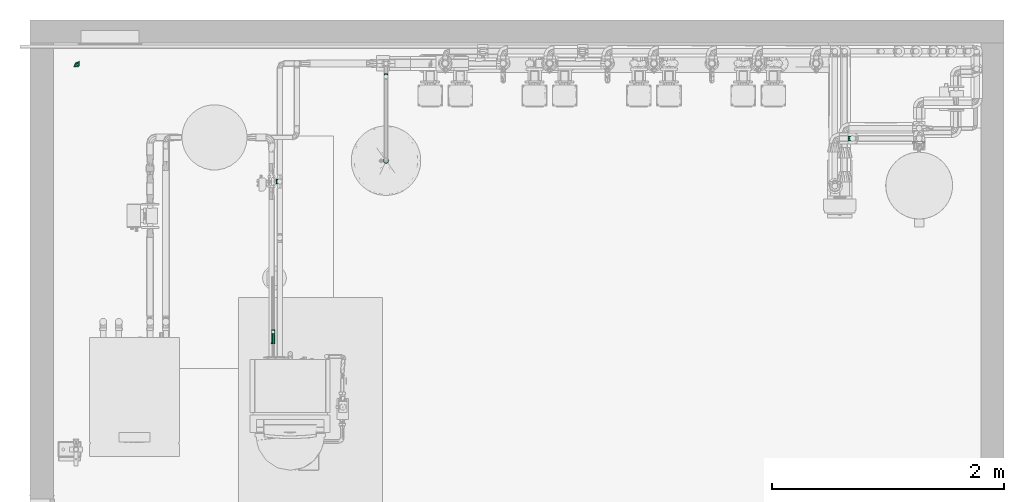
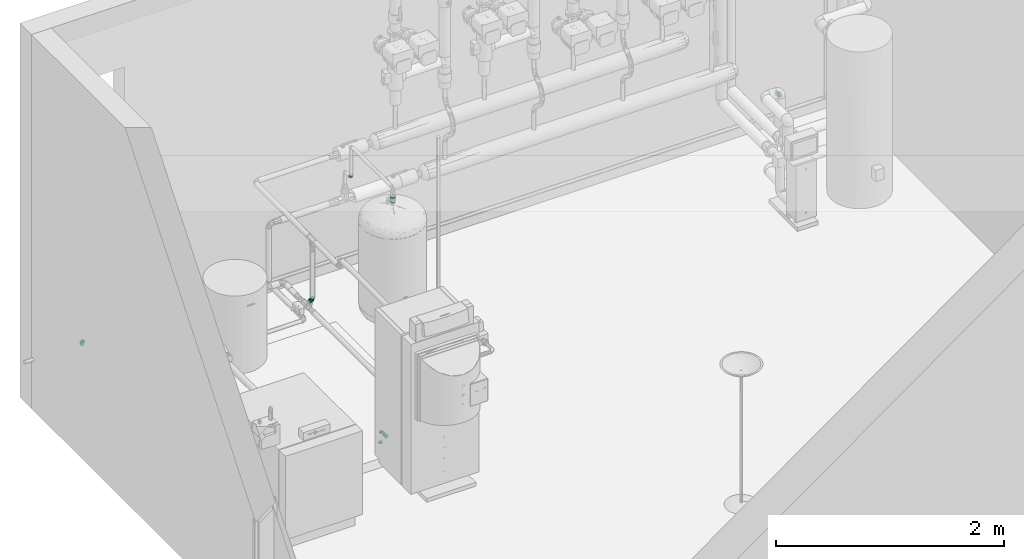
# One storey, part 93 of 94: 8 flow fittings.
"""IFC2X3 building model written with IfcOpenShell, lengths in millimetres."""

import ifcopenshell
import ifcopenshell.guid

model = None  # the IFC model being written
_history = None  # IfcOwnerHistory: only IFC2X3 demands one
_inside = {}  # id of a spatial element -> (the spatial element, [elements in it])
_under = {}  # id of a project, library or spatial element -> (it, [spatial elements below it])
_declared = {}  # id of a project -> (the project, [libraries it declares])
_typed = {}  # id of a type object -> (the type object, [elements of that type])
_made_of = {}  # id of a material, layer set ... -> (it, [elements and type objects made of it])


def new_model(schema):
    """Start an empty IFC model of exactly this schema.

    Asked for "IFC4X3", IfcOpenShell would pick the latest addendum, in which some entities
    have other attributes; the version numbers below select the first issue.
    IFC2X3 requires an IfcOwnerHistory on every rooted entity: one is made here for all.
    """
    global model, _history
    if schema == "IFC4X3":
        model = ifcopenshell.file(schema_version=(4, 3, 0, 0))
    else:
        model = ifcopenshell.file(schema=schema)
    _inside.clear()
    _under.clear()
    _declared.clear()
    _typed.clear()
    _made_of.clear()
    _history = None
    if model.schema == "IFC2X3":
        org = make("IfcOrganization", Name="unknown")
        user = make(
            "IfcPersonAndOrganization",
            ThePerson=make("IfcPerson", FamilyName="unknown"),
            TheOrganization=org,
        )
        app = make(
            "IfcApplication",
            ApplicationDeveloper=org,
            Version="unknown",
            ApplicationFullName="unknown",
            ApplicationIdentifier="unknown",
        )
        _history = make(
            "IfcOwnerHistory",
            OwningUser=user,
            OwningApplication=app,
            ChangeAction="ADDED",
            CreationDate=0,
        )
    return model


def make(cls, **values):
    """One entity of the class cls with the attributes given. An attribute that is None is left unset."""
    return model.create_entity(
        cls, **{name: value for name, value in values.items() if value is not None}
    )


def entity(cls, *values):
    """Any entity or typed value of the class cls, its attributes in the order of the schema. None: left unset."""
    e = model.create_entity(cls)
    for i, value in enumerate(values):
        if value is not None:
            e[i] = value
    return e


def rooted(cls, **values):
    """An entity with a GlobalId (a new one), such as an element, a storey or a relation."""
    return make(cls, GlobalId=ifcopenshell.guid.new(), OwnerHistory=_history, **values)


def si_unit(unit_type, name, prefix=None):
    """IfcSIUnit, for example si_unit("LENGTHUNIT", "METRE", prefix="MILLI")."""
    return make("IfcSIUnit", UnitType=unit_type, Prefix=prefix, Name=name)


def converted_unit(unit_type, name, factor, base, dimensions=None, offset=None):
    """IfcConversionBasedUnit, such as the inch: factor (a typed value) times the base unit."""
    return make(
        "IfcConversionBasedUnit"
        if offset is None
        else "IfcConversionBasedUnitWithOffset",
        ConversionOffset=offset,
        Dimensions=None
        if dimensions is None
        else entity("IfcDimensionalExponents", *dimensions),
        UnitType=unit_type,
        Name=name,
        ConversionFactor=make(
            "IfcMeasureWithUnit", ValueComponent=factor, UnitComponent=base
        ),
    )


def derived_unit(unit_type, elements):
    """IfcDerivedUnit: a product of units, each with its exponent."""
    return make(
        "IfcDerivedUnit",
        Elements=[
            make("IfcDerivedUnitElement", Unit=unit, Exponent=power)
            for unit, power in elements
        ],
        UnitType=unit_type,
    )


def assignment(units):
    """IfcUnitAssignment: the units of a project."""
    return None if units is None else make("IfcUnitAssignment", Units=units)


def point(xyz):
    """IfcCartesianPoint."""
    return None if xyz is None else make("IfcCartesianPoint", Coordinates=xyz)


def direction(xyz):
    """IfcDirection."""
    return None if xyz is None else make("IfcDirection", DirectionRatios=xyz)


def frame(location, z_axis=None, x_axis=None):
    """IfcAxis2Placement3D, a coordinate frame: its origin and axes. An axis left out is left unset."""
    return make(
        "IfcAxis2Placement3D",
        Location=point(location),
        Axis=direction(z_axis),
        RefDirection=direction(x_axis),
    )


def origin():
    """The frame at (0, 0, 0) with its axes left unset."""
    return frame((0.0, 0.0, 0.0))


def place(relative_to, where):
    """IfcLocalPlacement: puts the frame where relative to a parent placement (None: the world)."""
    return make(
        "IfcLocalPlacement", PlacementRelTo=relative_to, RelativePlacement=where
    )


def context(
    kind, dimensions, precision=None, world=None, true_north=None, identifier=None
):
    """IfcGeometricRepresentationContext, for example the 3D "Model" context."""
    return make(
        "IfcGeometricRepresentationContext",
        ContextIdentifier=identifier,
        ContextType=kind,
        CoordinateSpaceDimension=dimensions,
        Precision=precision,
        WorldCoordinateSystem=world,
        TrueNorth=true_north,
    )


def subcontext(parent, identifier, kind, view, scale=None):
    """IfcGeometricRepresentationSubContext, for example "Body" below "Model"."""
    return make(
        "IfcGeometricRepresentationSubContext",
        ContextIdentifier=identifier,
        ContextType=kind,
        ParentContext=parent,
        TargetScale=scale,
        TargetView=view,
    )


def project(units=None, contexts=None):
    """IfcProject with its units and contexts."""
    return rooted(
        "IfcProject",
        Name="project",
        RepresentationContexts=contexts,
        UnitsInContext=assignment(units),
    )


def spatial(cls, under=None, at=None, **own):
    """A site, building, storey or space (cls), placed at a placement, below another one or the project."""
    s = rooted(cls, ObjectPlacement=at, **own)
    if under is not None:
        _under.setdefault(under.id(), (under, []))[1].append(s)
    return s


def faces_of(points, faces, orient=None, outer=None):
    """IfcFace entities. A face is a list of loops; a loop is a list of indices into points, from 0.

    orient and outer hold one flag for each loop. By default every Orientation is true, the
    first loop of a face is its IfcFaceOuterBound and the others are IfcFaceBound.
    """
    made = []
    for i, loops in enumerate(faces):
        bounds = []
        for j, loop in enumerate(loops):
            is_outer = j == 0 if outer is None else outer[i][j]
            bounds.append(
                make(
                    "IfcFaceOuterBound" if is_outer else "IfcFaceBound",
                    Bound=make("IfcPolyLoop", Polygon=[points[k] for k in loop]),
                    Orientation=True if orient is None else orient[i][j],
                )
            )
        made.append(make("IfcFace", Bounds=bounds))
    return made


def faceted_brep(points, faces, orient=None, outer=None, voids=None):
    """IfcFacetedBrep: a solid bounded by flat faces; with voids (closed shells), ...WithVoids."""
    shared = [point(p) for p in points]
    hull = make("IfcClosedShell", CfsFaces=faces_of(shared, faces, orient, outer))
    if voids is None:
        return make("IfcFacetedBrep", Outer=hull)
    return make(
        "IfcFacetedBrepWithVoids",
        Outer=hull,
        Voids=[
            make(cls, CfsFaces=faces_of(shared, fs, o, b)) for cls, fs, o, b in voids
        ],
    )


def shape(context_of_items, identifier, shape_type, items):
    """IfcShapeRepresentation: the items that make up one representation, for example the "Body"."""
    return make(
        "IfcShapeRepresentation",
        ContextOfItems=context_of_items,
        RepresentationIdentifier=identifier,
        RepresentationType=shape_type,
        Items=items,
    )


def source(mapping_origin, context_of_items, identifier, shape_type, items):
    """IfcRepresentationMap: a shape defined once, which mapped items show again and again."""
    return make(
        "IfcRepresentationMap",
        MappingOrigin=mapping_origin,
        MappedRepresentation=shape(context_of_items, identifier, shape_type, items),
    )


def transform(
    local_origin,
    x_axis=None,
    y_axis=None,
    z_axis=None,
    scale=None,
    scale2=None,
    scale3=None,
    uniform=True,
):
    """IfcCartesianTransformationOperator3D, or its non-uniform kind. x_axis, y_axis, z_axis: its Axis1, 2, 3."""
    if uniform:
        return make(
            "IfcCartesianTransformationOperator3D",
            Axis1=direction(x_axis),
            Axis2=direction(y_axis),
            LocalOrigin=point(local_origin),
            Scale=scale,
            Axis3=direction(z_axis),
        )
    return make(
        "IfcCartesianTransformationOperator3DnonUniform",
        Axis1=direction(x_axis),
        Axis2=direction(y_axis),
        LocalOrigin=point(local_origin),
        Scale=scale,
        Axis3=direction(z_axis),
        Scale2=scale2,
        Scale3=scale3,
    )


def mapped(mapping_source, mapping_target):
    """IfcMappedItem: shows the shape of a source again, moved by a transform."""
    return make(
        "IfcMappedItem", MappingSource=mapping_source, MappingTarget=mapping_target
    )


def material(Name=None, Category=None):
    """IfcMaterial."""
    return make("IfcMaterial", Name=Name, Category=Category)


def made_of(thing, what):
    """Note that an element or type object is made of a material, layer set ...; save() writes the relation."""
    if what is not None:
        _made_of.setdefault(what.id(), (what, []))[1].append(thing)
    return thing


def type_object(cls, material=None, **own):
    """A type object (cls), such as IfcWallType, which elements share."""
    return made_of(rooted(cls, **own), material)


def type_shapes(of_type, sources):
    """Give a type object the sources (RepresentationMaps) that its elements show as mapped items."""
    of_type.RepresentationMaps = sources


def element(
    cls,
    number,
    at=None,
    inside=None,
    cuts=None,
    type_object=None,
    material=None,
    context=None,
    identifier="Body",
    shape_type=None,
    held_by="IfcProductDefinitionShape",
    body=None,
    shapes=None,
    **own,
):
    """One element of the class cls, such as IfcWall. Its Tag is "e" and its number.

    at: its placement. inside: the storey or other place that contains it. cuts: it is an
    opening in that element (IfcRelVoidsElement). A single representation is given by context,
    identifier, shape_type and body (its items); several are given by shapes. held_by: the class
    of the entity that holds the representations. save() writes the other relations.
    """
    e = rooted(cls, Tag="e%d" % number, ObjectPlacement=at, **own)
    if body is not None:
        shapes = [shape(context, identifier, shape_type, body)]
    if shapes is not None:
        e.Representation = make(held_by, Representations=shapes)
    if inside is not None:
        _inside.setdefault(inside.id(), (inside, []))[1].append(e)
    if cuts is not None:
        rooted(
            "IfcRelVoidsElement", RelatingBuildingElement=cuts, RelatedOpeningElement=e
        )
    if type_object is not None:
        _typed.setdefault(type_object.id(), (type_object, []))[1].append(e)
    return made_of(e, material)


def aggregate(whole, parts):
    """IfcRelAggregates: a whole, such as a stair, and the parts it consists of."""
    return rooted("IfcRelAggregates", RelatingObject=whole, RelatedObjects=parts)


def save(model, path):
    """Write the relations noted so far, then the file.

    IfcRelAggregates (storeys below a building ...), IfcRelContainedInSpatialStructure (elements
    in a storey), IfcRelDefinesByType, IfcRelAssociatesMaterial and IfcRelDeclares: one each for
    every whole, place, type object, material and project.
    """
    for whole, parts in _under.values():
        aggregate(whole, parts)
    for where, things in _inside.values():
        rooted(
            "IfcRelContainedInSpatialStructure",
            RelatedElements=things,
            RelatingStructure=where,
        )
    for kind, things in _typed.values():
        rooted("IfcRelDefinesByType", RelatedObjects=things, RelatingType=kind)
    for what, things in _made_of.values():
        rooted("IfcRelAssociatesMaterial", RelatedObjects=things, RelatingMaterial=what)
    for by, libraries in _declared.values():
        rooted("IfcRelDeclares", RelatingContext=by, RelatedDefinitions=libraries)
    model.write(path)


model = new_model("IFC2X3")

# Units and contexts
model_context = context("Model", 3, precision=0.01, world=origin(), true_north=direction((6.123031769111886e-17, 1.0)))
body_context = subcontext(model_context, "Body", "Model", "MODEL_VIEW")
ifc_project = project(units=[si_unit("LENGTHUNIT", "METRE", prefix="MILLI"), si_unit("AREAUNIT", "SQUARE_METRE"), si_unit("VOLUMEUNIT", "CUBIC_METRE"), converted_unit("PLANEANGLEUNIT", "DEGREE", entity("IfcRatioMeasure", 0.017453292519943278), si_unit("PLANEANGLEUNIT", "RADIAN"), dimensions=[0, 0, 0, 0, 0, 0, 0]), si_unit("MASSUNIT", "GRAM", prefix="KILO"), derived_unit("MASSDENSITYUNIT", [(si_unit("MASSUNIT", "GRAM", prefix="KILO"), 1), (si_unit("LENGTHUNIT", "METRE"), -3)]), derived_unit("IONCONCENTRATIONUNIT", [(si_unit("MASSUNIT", "GRAM", prefix="KILO"), 1), (si_unit("LENGTHUNIT", "METRE"), -3)]), derived_unit("MOMENTOFINERTIAUNIT", [(si_unit("LENGTHUNIT", "METRE"), 4)]), si_unit("TIMEUNIT", "SECOND"), si_unit("FREQUENCYUNIT", "HERTZ"), si_unit("THERMODYNAMICTEMPERATUREUNIT", "DEGREE_CELSIUS"), derived_unit("THERMALTRANSMITTANCEUNIT", [(si_unit("MASSUNIT", "GRAM", prefix="KILO"), 1), (si_unit("THERMODYNAMICTEMPERATUREUNIT", "KELVIN"), -1), (si_unit("TIMEUNIT", "SECOND"), -3)]), derived_unit("THERMALCONDUCTANCEUNIT", [(si_unit("MASSUNIT", "GRAM", prefix="KILO"), 1), (si_unit("THERMODYNAMICTEMPERATUREUNIT", "KELVIN"), -1), (si_unit("TIMEUNIT", "SECOND"), -3), (si_unit("LENGTHUNIT", "METRE"), 1)]), derived_unit("VOLUMETRICFLOWRATEUNIT", [(si_unit("LENGTHUNIT", "METRE"), 3), (si_unit("TIMEUNIT", "SECOND"), -1)]), derived_unit("MASSFLOWRATEUNIT", [(si_unit("MASSUNIT", "GRAM", prefix="KILO"), 1), (si_unit("TIMEUNIT", "SECOND"), -1)]), derived_unit("ROTATIONALFREQUENCYUNIT", [(si_unit("TIMEUNIT", "SECOND"), -1)]), si_unit("ELECTRICCURRENTUNIT", "AMPERE"), si_unit("ELECTRICVOLTAGEUNIT", "VOLT"), si_unit("POWERUNIT", "WATT"), si_unit("FORCEUNIT", "NEWTON", prefix="KILO"), si_unit("ILLUMINANCEUNIT", "LUX"), si_unit("LUMINOUSFLUXUNIT", "LUMEN"), si_unit("LUMINOUSINTENSITYUNIT", "CANDELA"), derived_unit("USERDEFINED", [(si_unit("MASSUNIT", "GRAM", prefix="KILO"), -1), (si_unit("LENGTHUNIT", "METRE"), -2), (si_unit("TIMEUNIT", "SECOND"), 3), (si_unit("LUMINOUSFLUXUNIT", "LUMEN"), 1)]), derived_unit("USERDEFINED", [(si_unit("MASSUNIT", "GRAM", prefix="KILO"), 1), (si_unit("TIMEUNIT", "SECOND"), -3), (si_unit("LENGTHUNIT", "METRE"), 3), (si_unit("ELECTRICCURRENTUNIT", "AMPERE"), -2)]), derived_unit("SOUNDPOWERUNIT", [(si_unit("MASSUNIT", "GRAM", prefix="KILO"), 1), (si_unit("TIMEUNIT", "SECOND"), -3), (si_unit("LENGTHUNIT", "METRE"), 2)]), derived_unit("SOUNDPRESSUREUNIT", [(si_unit("MASSUNIT", "GRAM", prefix="KILO"), 1), (si_unit("LENGTHUNIT", "METRE"), -1), (si_unit("TIMEUNIT", "SECOND"), -2)]), derived_unit("LINEARVELOCITYUNIT", [(si_unit("LENGTHUNIT", "METRE"), 1), (si_unit("TIMEUNIT", "SECOND"), -1)]), si_unit("PRESSUREUNIT", "PASCAL"), derived_unit("USERDEFINED", [(si_unit("MASSUNIT", "GRAM", prefix="KILO"), 1), (si_unit("LENGTHUNIT", "METRE"), -2), (si_unit("TIMEUNIT", "SECOND"), -2)]), derived_unit("LINEARFORCEUNIT", [(si_unit("MASSUNIT", "GRAM", prefix="KILO"), 1), (si_unit("TIMEUNIT", "SECOND"), -2)]), derived_unit("PLANARFORCEUNIT", [(si_unit("MASSUNIT", "GRAM", prefix="KILO"), 1), (si_unit("LENGTHUNIT", "METRE"), -1), (si_unit("TIMEUNIT", "SECOND"), -2)]), derived_unit("SPECIFICHEATCAPACITYUNIT", [(si_unit("THERMODYNAMICTEMPERATUREUNIT", "KELVIN"), -1), (si_unit("LENGTHUNIT", "METRE"), 2), (si_unit("TIMEUNIT", "SECOND"), -2)]), derived_unit("HEATINGVALUEUNIT", [(si_unit("LENGTHUNIT", "METRE"), 2), (si_unit("TIMEUNIT", "SECOND"), -2)]), derived_unit("VAPORPERMEABILITYUNIT", [(si_unit("LENGTHUNIT", "METRE"), -1), (si_unit("TIMEUNIT", "SECOND"), 1)]), derived_unit("DYNAMICVISCOSITYUNIT", [(si_unit("MASSUNIT", "GRAM", prefix="KILO"), 1), (si_unit("TIMEUNIT", "SECOND"), -1), (si_unit("LENGTHUNIT", "METRE"), -1)]), derived_unit("THERMALEXPANSIONCOEFFICIENTUNIT", [(si_unit("THERMODYNAMICTEMPERATUREUNIT", "KELVIN"), -1)]), derived_unit("MODULUSOFELASTICITYUNIT", [(si_unit("MASSUNIT", "GRAM", prefix="KILO"), 1), (si_unit("LENGTHUNIT", "METRE"), -1), (si_unit("TIMEUNIT", "SECOND"), -2)]), derived_unit("ISOTHERMALMOISTURECAPACITYUNIT", [(si_unit("LENGTHUNIT", "METRE"), 3), (si_unit("MASSUNIT", "GRAM", prefix="KILO"), -1)]), derived_unit("MOISTUREDIFFUSIVITYUNIT", [(si_unit("TIMEUNIT", "SECOND"), -1), (si_unit("LENGTHUNIT", "METRE"), 2)])], contexts=[model_context])

# Site, building, storey
site_placement = place(None, origin())
site = spatial("IfcSite", under=ifc_project, at=site_placement, Name="Default", CompositionType="ELEMENT")
building_placement = place(site_placement, origin())
building = spatial("IfcBuilding", under=site, at=building_placement, CompositionType="ELEMENT")
storey_placement = place(building_placement, origin())
storey = spatial("IfcBuildingStorey", under=building, at=storey_placement, Name="Niveau 0", CompositionType="ELEMENT", Elevation=0.0)

# Flow fittings
ifc_material = material(Name="<Unnamed>")
pipe_fitting_type_1 = type_object("IfcPipeFittingType", Name="Coude - Générique:Standard", PredefinedType="NOTDEFINED", material=ifc_material)
shared_shape_1 = source(origin(), body_context, "Body", "Brep", [
    faceted_brep([(4.486976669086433, -4.487930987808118, 0.0), (1.02866121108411, -1.0288799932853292, -11.808683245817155), (11.813999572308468, 24.997488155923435, -11.808683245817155), (16.705316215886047, 24.996447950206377, 0.0), (-7.320450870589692, 7.322007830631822, -16.700000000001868), (0.00531659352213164, 24.999999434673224, -16.700000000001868), (-15.669562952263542, 15.672895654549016, -11.808683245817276), (-11.80336638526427, 25.00251071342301, -11.808683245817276), (-19.127878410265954, 19.131946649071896, 0.0), (-16.694683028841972, 25.00355091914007, 0.0), (-15.6695629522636, 15.672895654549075, 11.808683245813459), (-11.803366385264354, 25.00251071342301, 11.808683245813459), (-7.320450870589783, 7.322007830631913, 16.699999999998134), (0.00531659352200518, 24.999999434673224, 16.699999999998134), (1.0286612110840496, -1.0288799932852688, 11.808683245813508), (11.813999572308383, 24.997488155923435, 11.808683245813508), (-25.0, -16.7000000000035, 0.0), (-25.0, -11.808683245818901, -11.808683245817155), (-25.0, 0.0, -16.700000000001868), (-25.0, 11.808683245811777, -11.808683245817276), (-25.0, 16.699999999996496, 0.0), (-25.0, 11.80868324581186, 11.808683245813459), (-25.0, 0.0, 16.699999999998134), (-25.0, -11.808683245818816, 11.808683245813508)], [[[0, 1, 2, 3]], [[1, 4, 5, 2]], [[4, 6, 7, 5]], [[6, 8, 9, 7]], [[8, 10, 11, 9]], [[10, 12, 13, 11]], [[12, 14, 15, 13]], [[14, 0, 3, 15]], [[16, 17, 1, 0]], [[17, 18, 4, 1]], [[18, 19, 6, 4]], [[19, 20, 8, 6]], [[20, 21, 10, 8]], [[21, 22, 12, 10]], [[22, 23, 14, 12]], [[23, 16, 0, 14]], [[3, 2, 5, 7, 9, 11, 13, 15]], [[23, 22, 21, 20, 19, 18, 17, 16]]]),
])
type_shapes(pipe_fitting_type_1, [shared_shape_1])
flow_fitting_1_placement = place(storey_placement, frame((-10883.233218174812, 9810.06480575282, 1172.1239046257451), z_axis=(1.0, 0.0, 0.0), x_axis=(0.0, 0.0, -1.0)))
element("IfcFlowFitting", 1, at=flow_fitting_1_placement, inside=storey, type_object=pipe_fitting_type_1, material=ifc_material, Name="Coude - Générique:Standard", ObjectType="Coude - Générique:Standard", context=body_context, shape_type="MappedRepresentation", body=[
    mapped(shared_shape_1, transform((0.0, 0.0, 0.0), scale=1.0)),
])
pipe_fitting_type_2 = type_object("IfcPipeFittingType", Name="Coude - Générique:Standard", PredefinedType="NOTDEFINED", material=ifc_material)
shared_shape_2 = source(origin(), body_context, "Body", "Brep", [
    faceted_brep([(5.946017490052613, -5.9452053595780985, 0.0), (2.6844488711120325, -2.6840822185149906, -14.195013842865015), (19.53256968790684, 38.002668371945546, -14.195013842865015), (24.14480923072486, 38.00329837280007, 0.0), (-5.854448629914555, 5.853649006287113, -22.968014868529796), (7.457569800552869, 38.00101900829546, -22.968014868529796), (-16.409106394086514, 16.40686517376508, -22.96801486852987), (-7.467950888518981, 37.99898028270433, -22.96801486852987), (-24.948003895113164, 24.94459639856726, -14.195013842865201), (-19.54295077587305, 37.99733091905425, -14.195013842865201), (-28.20957251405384, 28.20571953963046, 0.0), (-24.155190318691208, 37.99670091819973, 0.0), (-24.94800389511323, 24.944596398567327, 14.195013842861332), (-19.542950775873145, 37.99733091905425, 14.195013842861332), (-16.409106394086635, 16.4068651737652, 22.968014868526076), (-7.467950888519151, 37.99898028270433, 22.968014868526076), (-5.8544486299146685, 5.853649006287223, 22.968014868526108), (7.457569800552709, 38.00101900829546, 22.968014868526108), (2.6844488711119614, -2.6840822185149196, 14.195013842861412), (19.53256968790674, 38.002668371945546, 14.195013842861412), (-38.0, -24.150000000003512, 0.0), (-38.0, -19.53776041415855, -14.195013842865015), (-38.0, -7.462760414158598, -22.968014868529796), (-38.0, 7.462760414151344, -22.96801486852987), (-38.0, 19.537760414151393, -14.195013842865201), (-38.0, 24.14999999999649, 0.0), (-38.0, 19.537760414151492, 14.195013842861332), (-38.0, 7.462760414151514, 22.968014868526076), (-38.0, -7.4627604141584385, 22.968014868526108), (-38.0, -19.537760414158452, 14.195013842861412)], [[[0, 1, 2, 3]], [[1, 4, 5, 2]], [[4, 6, 7, 5]], [[6, 8, 9, 7]], [[8, 10, 11, 9]], [[10, 12, 13, 11]], [[12, 14, 15, 13]], [[14, 16, 17, 15]], [[16, 18, 19, 17]], [[18, 0, 3, 19]], [[20, 21, 1, 0]], [[21, 22, 4, 1]], [[22, 23, 6, 4]], [[23, 24, 8, 6]], [[24, 25, 10, 8]], [[25, 26, 12, 10]], [[26, 27, 14, 12]], [[27, 28, 16, 14]], [[28, 29, 18, 16]], [[29, 20, 0, 18]], [[3, 2, 5, 7, 9, 11, 13, 15, 17, 19]], [[29, 28, 27, 26, 25, 24, 23, 22, 21, 20]]]),
])
type_shapes(pipe_fitting_type_2, [shared_shape_2])
flow_fitting_2_placement = place(storey_placement, frame((-6858.1509134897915, 9275.477679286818, 1000.0143747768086), z_axis=(0.0, -1.0, 0.0), x_axis=(0.0, 0.0, 1.0)))
element("IfcFlowFitting", 2, at=flow_fitting_2_placement, inside=storey, type_object=pipe_fitting_type_2, material=ifc_material, Name="Coude - Générique:Standard", ObjectType="Coude - Générique:Standard", context=body_context, shape_type="MappedRepresentation", body=[
    mapped(shared_shape_2, transform((0.0, 0.0, 0.0), scale=1.0)),
])
pipe_fitting_type_3 = type_object("IfcPipeFittingType", Name="Coude - Générique:Standard", PredefinedType="NOTDEFINED", material=ifc_material)
shared_shape_3 = source(origin(), body_context, "Body", "Brep", [
    faceted_brep([(5.547755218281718, -5.548309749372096, 0.0), (2.698440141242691, -2.6987098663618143, -12.40226882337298), (17.073456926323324, 31.998293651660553, -12.40226882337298), (21.10319832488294, 31.99789087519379, 0.0), (-4.761163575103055, 4.761639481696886, -20.06729249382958), (6.523456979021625, 31.99934813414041, -20.06729249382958), (-13.981740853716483, 13.9831384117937, -20.067292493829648), (-6.517060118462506, 32.0006515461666, -20.067292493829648), (-21.44134457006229, 21.443487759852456, -12.402268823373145), (-17.067060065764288, 32.00170602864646, -12.402268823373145), (-24.290659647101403, 24.29308764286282, 0.0), (-21.096801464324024, 32.00210880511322, 0.0), (-21.441344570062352, 21.44348775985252, 12.402268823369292), (-17.067060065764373, 32.00170602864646, 12.402268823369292), (-13.981740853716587, 13.983138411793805, 20.067292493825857), (-6.517060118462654, 32.0006515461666, 20.067292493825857), (-4.761163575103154, 4.761639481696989, 20.067292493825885), (6.523456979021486, 31.99934813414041, 20.067292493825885), (2.6984401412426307, -2.698709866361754, 12.402268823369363), (17.07345692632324, 31.998293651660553, 12.402268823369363), (-32.0, -21.100000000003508, 0.0), (-32.0, -17.070258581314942, -12.40226882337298), (-32.0, -6.520258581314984, -20.06729249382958), (-32.0, 6.520258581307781, -20.067292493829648), (-32.0, 17.070258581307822, -12.402268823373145), (-32.0, 21.099999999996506, 0.0), (-32.0, 17.070258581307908, 12.402268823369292), (-32.0, 6.520258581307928, 20.067292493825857), (-32.0, -6.520258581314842, 20.067292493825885), (-32.0, -17.070258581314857, 12.402268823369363)], [[[0, 1, 2, 3]], [[1, 4, 5, 2]], [[4, 6, 7, 5]], [[6, 8, 9, 7]], [[8, 10, 11, 9]], [[10, 12, 13, 11]], [[12, 14, 15, 13]], [[14, 16, 17, 15]], [[16, 18, 19, 17]], [[18, 0, 3, 19]], [[20, 21, 1, 0]], [[21, 22, 4, 1]], [[22, 23, 6, 4]], [[23, 24, 8, 6]], [[24, 25, 10, 8]], [[25, 26, 12, 10]], [[26, 27, 14, 12]], [[27, 28, 16, 14]], [[28, 29, 18, 16]], [[29, 20, 0, 18]], [[3, 2, 5, 7, 9, 11, 13, 15, 17, 19]], [[29, 28, 27, 26, 25, 24, 23, 22, 21, 20]]]),
])
type_shapes(pipe_fitting_type_3, [shared_shape_3])
flow_fitting_3_placement = place(storey_placement, frame((-13557.875711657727, 9922.470546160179, 278.06323765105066), z_axis=(-0.009995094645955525, -0.009999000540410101, 0.9999000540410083), x_axis=(-0.9999500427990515, 0.0, -0.009995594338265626)))
element("IfcFlowFitting", 3, at=flow_fitting_3_placement, inside=storey, type_object=pipe_fitting_type_3, material=ifc_material, Name="Coude - Générique:Standard", ObjectType="Coude - Générique:Standard", context=body_context, shape_type="MappedRepresentation", body=[
    mapped(shared_shape_3, transform((0.0, 0.0, 0.0), scale=1.0)),
])
pipe_fitting_type_4 = type_object("IfcPipeFittingType", Name="Coude - Générique:Standard", PredefinedType="NOTDEFINED", material=ifc_material)
shared_shape_4 = source(origin(), body_context, "Body", "Brep", [
    faceted_brep([(5.547370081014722, -5.547370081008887, 0.0), (2.697912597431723, -2.697912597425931, -12.40226882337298), (17.070258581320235, 32.0, -12.40226882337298), (21.10000000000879, 32.0, 0.0), (-4.762063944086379, 4.762063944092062, -20.06729249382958), (6.520258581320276, 32.0, -20.06729249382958), (-13.983102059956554, 13.983102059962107, -20.067292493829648), (-6.520258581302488, 32.0, -20.067292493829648), (-21.443078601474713, 21.443078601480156, -12.402268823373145), (-17.07025858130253, 32.0, -12.402268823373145), (-24.292536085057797, 24.292536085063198, 0.0), (-21.09999999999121, 32.0, 0.0), (-21.443078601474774, 21.443078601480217, 12.402268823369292), (-17.070258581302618, 32.0, 12.402268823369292), (-13.983102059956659, 13.98310205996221, 20.067292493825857), (-6.520258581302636, 32.0, 20.067292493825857), (-4.762063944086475, 4.762063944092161, 20.067292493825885), (6.520258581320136, 32.0, 20.067292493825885), (2.6979125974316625, -2.6979125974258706, 12.402268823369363), (17.07025858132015, 32.0, 12.402268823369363), (-32.0, -21.100000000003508, 0.0), (-32.0, -17.07025858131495, -12.40226882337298), (-32.0, -6.520258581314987, -20.06729249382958), (-32.0, 6.520258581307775, -20.067292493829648), (-32.0, 17.070258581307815, -12.402268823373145), (-32.0, 21.099999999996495, 0.0), (-32.0, 17.070258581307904, 12.402268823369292), (-32.0, 6.520258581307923, 20.067292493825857), (-32.0, -6.520258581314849, 20.067292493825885), (-32.0, -17.070258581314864, 12.402268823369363)], [[[0, 1, 2, 3]], [[1, 4, 5, 2]], [[4, 6, 7, 5]], [[6, 8, 9, 7]], [[8, 10, 11, 9]], [[10, 12, 13, 11]], [[12, 14, 15, 13]], [[14, 16, 17, 15]], [[16, 18, 19, 17]], [[18, 0, 3, 19]], [[20, 21, 1, 0]], [[21, 22, 4, 1]], [[22, 23, 6, 4]], [[23, 24, 8, 6]], [[24, 25, 10, 8]], [[25, 26, 12, 10]], [[26, 27, 14, 12]], [[27, 28, 16, 14]], [[28, 29, 18, 16]], [[29, 20, 0, 18]], [[3, 2, 5, 7, 9, 11, 13, 15, 17, 19]], [[29, 28, 27, 26, 25, 24, 23, 22, 21, 20]]]),
])
type_shapes(pipe_fitting_type_4, [shared_shape_4])
flow_fitting_4_placement = place(storey_placement, frame((-11799.290704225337, 8904.163679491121, 726.0000070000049), z_axis=(-0.010493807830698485, 0.9999449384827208, 0.0), x_axis=(0.0, 0.0, -1.0)))
element("IfcFlowFitting", 4, at=flow_fitting_4_placement, inside=storey, type_object=pipe_fitting_type_4, material=ifc_material, Name="Coude - Générique:Standard", ObjectType="Coude - Générique:Standard", context=body_context, shape_type="MappedRepresentation", body=[
    mapped(shared_shape_4, transform((0.0, 0.0, 0.0), scale=1.0)),
])
pipe_fitting_type_5 = type_object("IfcPipeFittingType", Name="Transformation - Générique:Standard", PredefinedType="NOTDEFINED", material=ifc_material)
shared_shape_5 = source(origin(), body_context, "Body", "Brep", [
    faceted_brep([(64.0, -17.84609323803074, 12.967102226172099), (64.0, -19.952538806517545, 6.48412937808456), (64.0, -22.058984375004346, 0.0011565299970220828), (64.0, -19.95253880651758, -6.481816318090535), (64.0, -17.846093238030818, -12.964789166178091), (64.0, -12.33134714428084, -16.971486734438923), (64.0, -6.816601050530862, -20.97818430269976), (64.0, 0.0, -20.978184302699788), (64.0, 6.816601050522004, -20.978184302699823), (64.0, 12.331347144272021, -16.971486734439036), (64.0, 17.846093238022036, -12.964789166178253), (64.0, 19.95253880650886, -6.481816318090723), (64.0, 22.058984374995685, 0.0011565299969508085), (64.0, 19.952538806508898, 6.484129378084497), (64.0, 17.846093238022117, 12.967102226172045), (64.0, 12.331347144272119, 16.973799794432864), (64.0, 6.8166010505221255, 20.98049736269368), (64.0, 0.0, 20.98049736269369), (64.0, -6.81660105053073, 20.9804973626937), (64.0, -12.331347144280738, 16.973799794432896), (0.0, 19.53776041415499, 14.195013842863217), (0.0, 21.118801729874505, 9.329069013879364), (0.0, 22.634400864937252, 4.664534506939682), (0.0, 24.15, 0.0), (0.0, 22.634401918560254, -4.664531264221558), (0.0, 21.11880383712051, -9.329062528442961), (0.0, 19.537760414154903, -14.195013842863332), (0.0, 13.500260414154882, -18.58151435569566), (0.0, 7.462760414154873, -22.96801486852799), (0.0, 0.0, -22.968014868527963), (0.0, -7.462760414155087, -22.968014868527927), (0.0, -13.50026041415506, -18.58151435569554), (0.0, -19.53776041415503, -14.195013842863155), (0.0, -21.11880351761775, -9.329063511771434), (0.0, -22.634401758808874, -4.664531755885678), (0.0, -24.15, 0.0), (0.0, -22.634401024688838, 4.664534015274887), (0.0, -21.118802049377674, 9.329068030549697), (0.0, -19.53776041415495, 14.195013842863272), (0.0, -13.50026041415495, 18.581514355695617), (0.0, -7.4627604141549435, 22.96801486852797), (0.0, 0.0, 22.968014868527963), (0.0, 7.462760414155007, 22.96801486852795), (0.0, 13.500260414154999, 18.58151435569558), (31.999999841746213, -20.043319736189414, -11.49215393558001), (29.94368217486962, -22.03430152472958, -7.169964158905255), (32.0, 20.043320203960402, -11.492153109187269), (32.0, 16.919809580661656, -15.732749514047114), (32.0, 10.489219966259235, -20.585675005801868), (32.0, -10.489219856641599, -20.585675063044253), (35.07514750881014, -13.857144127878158, -18.36140636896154), (32.0, -16.919808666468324, -15.732750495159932), (32.0, -23.104492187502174, 0.000578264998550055), (32.0, -3.614338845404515, -22.819459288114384), (32.0, 3.6143389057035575, -22.819459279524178), (28.924854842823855, 13.978188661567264, -18.521911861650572), (29.943684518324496, 22.034301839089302, -7.169962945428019), (32.0, 23.104492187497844, 0.0005782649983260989), (31.99999984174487, 20.043318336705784, 11.493312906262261), (29.943675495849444, 22.03430113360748, 7.171048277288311), (32.0, -20.043318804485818, 11.493312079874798), (32.0, -16.919805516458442, 15.733910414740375), (32.0, -10.489219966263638, 20.586831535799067), (32.0, 10.48921985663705, 20.586831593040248), (35.07516477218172, 13.85714141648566, 18.362675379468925), (32.0, 16.919804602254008, 15.733911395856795), (32.0, 3.614338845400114, 22.820615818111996), (32.0, -3.6143389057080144, 22.82061580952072), (28.924837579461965, -13.97818660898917, 18.522959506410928), (29.94367783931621, -22.03430144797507, 7.171047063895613)], [[[0, 1, 2, 3, 4, 5, 6, 7, 8, 9, 10, 11, 12, 13, 14, 15, 16, 17, 18, 19]], [[20, 21, 22, 23, 24, 25, 26, 27, 28, 29, 30, 31, 32, 33, 34, 35, 36, 37, 38, 39, 40, 41, 42, 43]], [[33, 44, 45]], [[26, 46, 47]], [[8, 48, 9]], [[49, 50, 31]], [[33, 32, 44]], [[51, 44, 32]], [[49, 31, 30]], [[34, 45, 52]], [[6, 49, 53]], [[3, 45, 44]], [[8, 54, 48]], [[7, 53, 54]], [[5, 4, 51]], [[46, 10, 47]], [[48, 55, 9]], [[11, 46, 56]], [[4, 44, 51]], [[5, 50, 49]], [[31, 51, 32]], [[7, 6, 53]], [[7, 54, 8]], [[28, 54, 53, 30, 29]], [[3, 44, 4]], [[46, 26, 25]], [[56, 57, 11]], [[56, 46, 25]], [[11, 10, 46]], [[9, 47, 10]], [[27, 26, 47]], [[24, 57, 56]], [[3, 52, 45]], [[56, 25, 24]], [[34, 33, 45]], [[23, 57, 24]], [[12, 11, 57]], [[53, 49, 30]], [[5, 49, 6]], [[48, 54, 28]], [[28, 27, 48]], [[55, 48, 27]], [[52, 3, 2]], [[35, 34, 52]], [[5, 51, 50]], [[31, 50, 51]], [[27, 47, 55]], [[9, 55, 47]], [[21, 58, 59]], [[38, 60, 61]], [[18, 62, 19]], [[63, 64, 43]], [[21, 20, 58]], [[65, 58, 20]], [[63, 43, 42]], [[22, 59, 57]], [[16, 63, 66]], [[13, 59, 58]], [[18, 67, 62]], [[17, 66, 67]], [[15, 14, 65]], [[60, 0, 61]], [[62, 68, 19]], [[1, 60, 69]], [[14, 58, 65]], [[15, 64, 63]], [[43, 65, 20]], [[17, 16, 66]], [[17, 67, 18]], [[40, 67, 66, 42, 41]], [[13, 58, 14]], [[60, 38, 37]], [[69, 52, 1]], [[69, 60, 37]], [[1, 0, 60]], [[19, 61, 0]], [[39, 38, 61]], [[36, 52, 69]], [[13, 57, 59]], [[69, 37, 36]], [[22, 21, 59]], [[35, 52, 36]], [[2, 1, 52]], [[66, 63, 42]], [[15, 63, 16]], [[62, 67, 40]], [[40, 39, 62]], [[68, 62, 39]], [[57, 13, 12]], [[23, 22, 57]], [[15, 65, 64]], [[43, 64, 65]], [[39, 61, 68]], [[19, 68, 61]]]),
])
type_shapes(pipe_fitting_type_5, [shared_shape_5])
flow_fitting_5_placement = place(storey_placement, frame((-10883.233218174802, 9084.02895705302, 1414.4383497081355), z_axis=(-1.0, 0.0, 0.0), x_axis=(0.0, 0.0, -1.0)))
element("IfcFlowFitting", 5, at=flow_fitting_5_placement, inside=storey, type_object=pipe_fitting_type_5, material=ifc_material, Name="Transformation - Générique:Standard", ObjectType="Transformation - Générique:Standard", context=body_context, shape_type="MappedRepresentation", body=[
    mapped(shared_shape_5, transform((0.0, 0.0, 0.0), scale=1.0)),
])
pipe_fitting_type_6 = type_object("IfcPipeFittingType", Name="Coude - Générique:Standard", PredefinedType="NOTDEFINED", material=ifc_material)
shared_shape_6 = source(origin(), body_context, "Body", "Brep", [
    faceted_brep([(5.21526180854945, -5.215261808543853, 0.0), (2.0653780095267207, -2.065378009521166, -10.754375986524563), (10.754375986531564, 18.911718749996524, -10.754375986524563), (15.208984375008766, 18.911718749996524, 0.0), (-5.539114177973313, 5.539114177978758, -15.208984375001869), (0.0, 18.911718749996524, -15.208984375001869), (-13.143606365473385, 13.14360636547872, -10.754375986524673), (-10.754375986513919, 18.911718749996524, -10.754375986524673), (-16.293490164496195, 16.293490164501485, 0.0), (-15.208984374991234, 18.911718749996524, 0.0), (-13.143606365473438, 13.143606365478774, 10.754375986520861), (-10.754375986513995, 18.911718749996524, 10.754375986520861), (-5.539114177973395, 5.539114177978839, 15.208984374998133), (0.0, 18.911718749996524, 15.208984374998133), (2.065378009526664, -2.0653780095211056, 10.754375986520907), (10.754375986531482, 18.911718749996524, 10.754375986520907), (-18.911718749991, -15.208984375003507, 0.0), (-18.91171874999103, -10.754375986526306, -10.754375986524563), (-18.91171874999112, 0.0, -15.208984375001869), (-18.91171874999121, 10.754375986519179, -10.754375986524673), (-18.91171874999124, 15.208984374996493, 0.0), (-18.91171874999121, 10.754375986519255, 10.754375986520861), (-18.91171874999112, 0.0, 15.208984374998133), (-18.91171874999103, -10.754375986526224, 10.754375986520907)], [[[0, 1, 2, 3]], [[1, 4, 5, 2]], [[4, 6, 7, 5]], [[6, 8, 9, 7]], [[8, 10, 11, 9]], [[10, 12, 13, 11]], [[12, 14, 15, 13]], [[14, 0, 3, 15]], [[16, 17, 1, 0]], [[17, 18, 4, 1]], [[18, 19, 6, 4]], [[19, 20, 8, 6]], [[20, 21, 10, 8]], [[21, 22, 12, 10]], [[22, 23, 14, 12]], [[23, 16, 0, 14]], [[3, 2, 5, 7, 9, 11, 13, 15]], [[23, 22, 21, 20, 19, 18, 17, 16]]]),
])
type_shapes(pipe_fitting_type_6, [shared_shape_6])
flow_fitting_6_placement = place(storey_placement, frame((-11856.28978822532, 7607.025064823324, 137.23316768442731), z_axis=(1.0, 0.0, 0.0), x_axis=(0.0, 0.0, 1.0)))
element("IfcFlowFitting", 6, at=flow_fitting_6_placement, inside=storey, type_object=pipe_fitting_type_6, material=ifc_material, Name="Coude - Générique:Standard", ObjectType="Coude - Générique:Standard", context=body_context, shape_type="MappedRepresentation", body=[
    mapped(shared_shape_6, transform((0.0, 0.0, 0.0), scale=1.0)),
])
pipe_fitting_type_7 = type_object("IfcPipeFittingType", Name="Transformation - Générique:Standard", PredefinedType="NOTDEFINED", material=ifc_material)
shared_shape_7 = source(origin(), body_context, "Body", "Brep", [
    faceted_brep([(84.84531250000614, 12.168589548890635, -12.168589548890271), (84.84531250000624, 13.428688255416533, -9.126442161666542), (84.84531250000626, 14.688786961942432, -6.084294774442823), (84.84531250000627, 16.308994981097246, -2.1727666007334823), (84.84531250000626, 17.20898437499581, 0.0), (84.84531250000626, 16.30899496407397, 2.172766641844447), (84.8453125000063, 14.68878696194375, 6.084294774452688), (84.84531250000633, 13.428688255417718, 9.126442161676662), (84.84531250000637, 12.168589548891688, 12.168589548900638), (84.84531250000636, 9.126442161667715, 13.428688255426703), (84.84531250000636, 6.08429477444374, 14.688786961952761), (84.84531250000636, 3.042147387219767, 15.948885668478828), (84.84531250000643, 0.0, 17.20898437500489), (84.84531250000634, -3.0421473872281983, 15.94888566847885), (84.84531250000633, -6.084294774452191, 14.68878696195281), (84.84531250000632, -9.12644216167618, 13.428688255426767), (84.84531250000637, -12.16858954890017, 12.168589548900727), (84.84531250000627, -13.428688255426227, 9.126442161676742), (84.84531250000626, -14.68878696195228, 6.084294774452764), (84.84531250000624, -16.308994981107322, 2.172766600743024), (84.84531250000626, -17.208984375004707, 0.0), (84.84531250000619, -16.308994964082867, -2.1727666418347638), (84.84531250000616, -14.688786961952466, -6.084294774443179), (84.84531250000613, -13.428688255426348, -9.126442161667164), (84.84531250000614, -12.168589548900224, -12.168589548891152), (84.8453125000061, -9.126442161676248, -13.428688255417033), (84.84531250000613, -6.08429477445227, -14.688786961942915), (84.84531250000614, -3.0421473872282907, -15.9488856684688), (84.84531250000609, 0.0, -17.20898437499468), (84.84531250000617, 3.042147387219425, -15.948885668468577), (84.84531250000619, 6.084294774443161, -14.688786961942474), (84.84531250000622, 9.126442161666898, -13.428688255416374), (0.0, 13.349999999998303, 0.0), (0.0, 12.372468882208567, -2.3599688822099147), (0.0, 11.394937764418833, -4.719937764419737), (0.0, 10.417406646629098, -7.079906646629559), (0.0, 9.43987552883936, -9.439875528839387), (0.0, 7.079906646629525, -10.41740664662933), (0.0, 4.719937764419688, -11.394937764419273), (0.0, 2.3599688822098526, -12.372468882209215), (0.0, 0.0, -13.349999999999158), (0.0, -2.3599688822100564, -12.372468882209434), (0.0, -4.7199377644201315, -11.394937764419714), (0.0, -7.079906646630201, -10.417406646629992), (0.0, -9.439875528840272, -9.439875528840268), (0.0, -10.417406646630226, -7.079906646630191), (0.0, -11.394937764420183, -4.719937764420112), (0.0, -12.37246888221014, -2.3599688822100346), (0.0, -13.349999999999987, 0.0), (0.0, -12.372468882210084, 2.359968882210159), (0.0, -11.394937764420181, 4.719937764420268), (0.0, -10.41740664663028, 7.079906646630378), (0.0, -9.439875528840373, 9.439875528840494), (0.0, -7.079906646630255, 10.417406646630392), (0.0, -4.719937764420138, 11.394937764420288), (0.0, -2.35996888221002, 12.372468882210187), (0.0, 0.0, 13.350000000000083), (0.0, 2.3599688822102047, 12.372468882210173), (0.0, 4.719937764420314, 11.394937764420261), (0.0, 7.079906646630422, 10.417406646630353), (0.0, 9.439875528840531, 9.43987552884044), (0.0, 10.417406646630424, 7.079906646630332), (0.0, 11.394937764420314, 4.71993776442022), (0.0, 12.372468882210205, 2.35996888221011)], [[[0, 1, 2, 3, 4, 5, 6, 7, 8, 9, 10, 11, 12, 13, 14, 15, 16, 17, 18, 19, 20, 21, 22, 23, 24, 25, 26, 27, 28, 29, 30, 31]], [[32, 33, 34, 35, 36, 37, 38, 39, 40, 41, 42, 43, 44, 45, 46, 47, 48, 49, 50, 51, 52, 53, 54, 55, 56, 57, 58, 59, 60, 61, 62, 63]], [[46, 45, 44, 24, 23, 22, 21, 20, 48, 47]], [[0, 36, 35, 34, 33, 32, 4, 3, 2, 1]], [[40, 28, 27, 26, 25, 24, 44, 43, 42, 41]], [[38, 37, 36, 0, 31, 30, 29, 28, 40, 39]], [[62, 61, 60, 8, 7, 6, 5, 4, 32, 63]], [[16, 52, 51, 50, 49, 48, 20, 19, 18, 17]], [[56, 12, 11, 10, 9, 8, 60, 59, 58, 57]], [[54, 53, 52, 16, 15, 14, 13, 12, 56, 55]]]),
])
type_shapes(pipe_fitting_type_7, [shared_shape_7])
flow_fitting_7_placement = place(storey_placement, frame((-11856.289788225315, 7588.113346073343, 137.23316768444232), z_axis=(0.0, 0.0, 1.0), x_axis=(0.0, -1.0, 0.0)))
element("IfcFlowFitting", 7, at=flow_fitting_7_placement, inside=storey, type_object=pipe_fitting_type_7, material=ifc_material, Name="Transformation - Générique:Standard", ObjectType="Transformation - Générique:Standard", context=body_context, shape_type="MappedRepresentation", body=[
    mapped(shared_shape_7, transform((0.0, 0.0, 0.0), scale=1.0)),
])
pipe_fitting_type_8 = type_object("IfcPipeFittingType", Name="Coude - Générique:Standard", PredefinedType="NOTDEFINED", material=ifc_material)
shared_shape_8 = source(origin(), body_context, "Body", "Brep", [
    faceted_brep([(5.202549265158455, -5.153343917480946, 0.0), (2.0377347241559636, -2.0184619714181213, -10.754375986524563), (10.574178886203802, 19.01305998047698, -10.754375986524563), (15.028586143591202, 19.055390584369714, 0.0), (-5.6028034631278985, 5.549812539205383, -15.208984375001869), (-0.17971152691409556, 18.9108648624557, -15.208984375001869), (-13.243341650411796, 13.11808704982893, -10.754375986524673), (-10.93360194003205, 18.808669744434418, -10.754375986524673), (-16.408156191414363, 16.252968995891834, 0.0), (-15.38800919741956, 18.766339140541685, 0.0), (-13.24334165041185, 13.118087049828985, 10.754375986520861), (-10.933601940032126, 18.808669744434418, 10.754375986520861), (-5.6028034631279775, 5.549812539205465, 15.208984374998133), (-0.17971152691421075, 18.9108648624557, 15.208984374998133), (2.0377347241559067, -2.018461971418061, 10.754375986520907), (10.574178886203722, 19.01305998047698, 10.754375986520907), (-18.91171874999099, -15.208984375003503, 0.0), (-18.911718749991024, -10.754375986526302, -10.754375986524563), (-18.911718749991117, 0.0, -15.208984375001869), (-18.911718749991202, 10.754375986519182, -10.754375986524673), (-18.911718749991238, 15.208984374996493, 0.0), (-18.9117187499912, 10.754375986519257, 10.754375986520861), (-18.911718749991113, 0.0, 15.208984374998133), (-18.911718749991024, -10.75437598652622, 10.754375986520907)], [[[0, 1, 2, 3]], [[1, 4, 5, 2]], [[4, 6, 7, 5]], [[6, 8, 9, 7]], [[8, 10, 11, 9]], [[10, 12, 13, 11]], [[12, 14, 15, 13]], [[14, 0, 3, 15]], [[16, 17, 1, 0]], [[17, 18, 4, 1]], [[18, 19, 6, 4]], [[19, 20, 8, 6]], [[20, 21, 10, 8]], [[21, 22, 12, 10]], [[22, 23, 14, 12]], [[23, 16, 0, 14]], [[3, 2, 5, 7, 9, 11, 13, 15]], [[23, 22, 21, 20, 19, 18, 17, 16]]]),
])
type_shapes(pipe_fitting_type_8, [shared_shape_8])
flow_fitting_8_placement = place(storey_placement, frame((-11856.28978822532, 7607.025064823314, 6.459763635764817), z_axis=(1.0, 0.0, 0.0), x_axis=(0.0, 0.0, -1.0)))
element("IfcFlowFitting", 8, at=flow_fitting_8_placement, inside=storey, type_object=pipe_fitting_type_8, material=ifc_material, Name="Coude - Générique:Standard", ObjectType="Coude - Générique:Standard", context=body_context, shape_type="MappedRepresentation", body=[
    mapped(shared_shape_8, transform((0.0, 0.0, 0.0), scale=1.0)),
])

save(model, "model.ifc")
